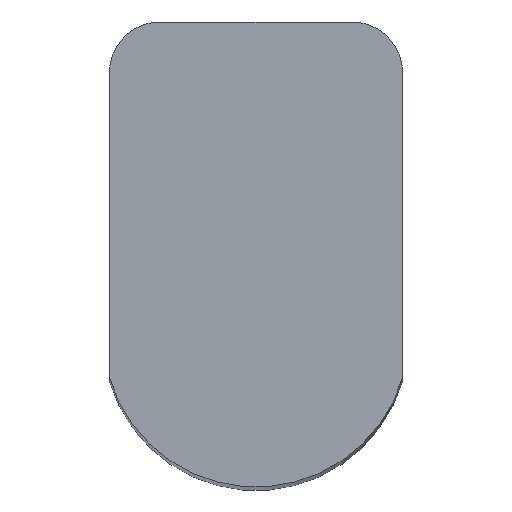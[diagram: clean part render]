
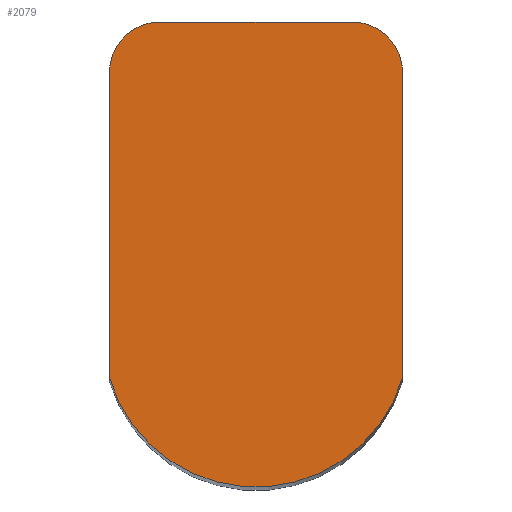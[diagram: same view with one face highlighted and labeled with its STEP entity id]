
A CAD part, top view. The second image highlights one B-rep face of the part: STEP entity #2079.
In plain terms, the highlighted planar face has unit normal (0, 0, 1).
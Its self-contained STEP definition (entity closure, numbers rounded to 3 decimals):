
#2 = AXIS2_PLACEMENT_3D ( 'NONE', #1028, #23, #1195 ) ;
#21 = CARTESIAN_POINT ( 'NONE',  ( 1.45, -1.22, 20. ) ) ;
#23 = DIRECTION ( 'NONE',  ( 0., 0., -1. ) ) ;
#101 = ORIENTED_EDGE ( 'NONE', *, *, #445, .F. ) ;
#199 = EDGE_CURVE ( 'NONE', #488, #687, #764, .T. ) ;
#282 = ORIENTED_EDGE ( 'NONE', *, *, #199, .T. ) ;
#291 = CARTESIAN_POINT ( 'NONE',  ( -0.95, 1.8, 20. ) ) ;
#302 = DIRECTION ( 'NONE',  ( 1., 0., 0. ) ) ;
#316 = CARTESIAN_POINT ( 'NONE',  ( 0.95, 1.8, 20. ) ) ;
#331 = AXIS2_PLACEMENT_3D ( 'NONE', #316, #1472, #480 ) ;
#340 = DIRECTION ( 'NONE',  ( -1., 0., 0. ) ) ;
#418 = ORIENTED_EDGE ( 'NONE', *, *, #1310, .F. ) ;
#419 = ORIENTED_EDGE ( 'NONE', *, *, #1134, .F. ) ;
#430 = CARTESIAN_POINT ( 'NONE',  ( 1.45, 2.3, 20. ) ) ;
#445 = EDGE_CURVE ( 'NONE', #1800, #1436, #1231, .T. ) ;
#460 = DIRECTION ( 'NONE',  ( 1., 0., 0. ) ) ;
#480 = DIRECTION ( 'NONE',  ( 1., 0., 0. ) ) ;
#488 = VERTEX_POINT ( 'NONE', #1034 ) ;
#500 = CARTESIAN_POINT ( 'NONE',  ( -0.95, 2.3, 20. ) ) ;
#526 = EDGE_CURVE ( 'NONE', #1426, #488, #623, .T. ) ;
#623 = CIRCLE ( 'NONE', #331, 0.5 ) ;
#655 = LINE ( 'NONE', #430, #1941 ) ;
#687 = VERTEX_POINT ( 'NONE', #500 ) ;
#690 = CARTESIAN_POINT ( 'NONE',  ( -1.45, 1.8, 20. ) ) ;
#764 = LINE ( 'NONE', #1498, #1588 ) ;
#878 = AXIS2_PLACEMENT_3D ( 'NONE', #1143, #1298, #302 ) ;
#889 = ORIENTED_EDGE ( 'NONE', *, *, #526, .T. ) ;
#905 = CARTESIAN_POINT ( 'NONE',  ( 1.45, 1.8, 20. ) ) ;
#968 = PLANE ( 'NONE',  #878 ) ;
#1028 = CARTESIAN_POINT ( 'NONE',  ( 0., -0.787, 20. ) ) ;
#1034 = CARTESIAN_POINT ( 'NONE',  ( 0.95, 2.3, 20. ) ) ;
#1070 = CARTESIAN_POINT ( 'NONE',  ( -1.45, -1.22, 20. ) ) ;
#1114 = EDGE_LOOP ( 'NONE', ( #889, #282, #1988, #418, #101, #419 ) ) ;
#1134 = EDGE_CURVE ( 'NONE', #1426, #1800, #655, .T. ) ;
#1143 = CARTESIAN_POINT ( 'NONE',  ( 0., 0.239, 20. ) ) ;
#1195 = DIRECTION ( 'NONE',  ( 1., 0., 0. ) ) ;
#1231 = CIRCLE ( 'NONE', #2, 1.513 ) ;
#1285 = LINE ( 'NONE', #1354, #1664 ) ;
#1298 = DIRECTION ( 'NONE',  ( 0., 0., 1. ) ) ;
#1310 = EDGE_CURVE ( 'NONE', #1436, #1949, #1285, .T. ) ;
#1354 = CARTESIAN_POINT ( 'NONE',  ( -1.45, -1.22, 20. ) ) ;
#1426 = VERTEX_POINT ( 'NONE', #905 ) ;
#1431 = DIRECTION ( 'NONE',  ( 0., -1., 0. ) ) ;
#1436 = VERTEX_POINT ( 'NONE', #1070 ) ;
#1455 = DIRECTION ( 'NONE',  ( 0., 0., 1. ) ) ;
#1472 = DIRECTION ( 'NONE',  ( 0., 0., 1. ) ) ;
#1498 = CARTESIAN_POINT ( 'NONE',  ( 0., 2.3, 20. ) ) ;
#1510 = DIRECTION ( 'NONE',  ( 0., 1., 0. ) ) ;
#1588 = VECTOR ( 'NONE', #340, 1000. ) ;
#1629 = AXIS2_PLACEMENT_3D ( 'NONE', #291, #1455, #460 ) ;
#1664 = VECTOR ( 'NONE', #1510, 1000. ) ;
#1800 = VERTEX_POINT ( 'NONE', #21 ) ;
#1941 = VECTOR ( 'NONE', #1431, 1000. ) ;
#1949 = VERTEX_POINT ( 'NONE', #690 ) ;
#1988 = ORIENTED_EDGE ( 'NONE', *, *, #2030, .T. ) ;
#2030 = EDGE_CURVE ( 'NONE', #687, #1949, #2112, .T. ) ;
#2079 = ADVANCED_FACE ( 'NONE', ( #2133 ), #968, .T. ) ;
#2112 = CIRCLE ( 'NONE', #1629, 0.5 ) ;
#2133 = FACE_OUTER_BOUND ( 'NONE', #1114, .T. ) ;
